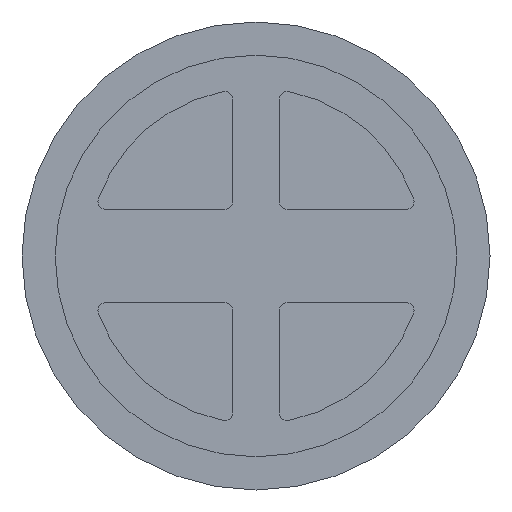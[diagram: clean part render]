
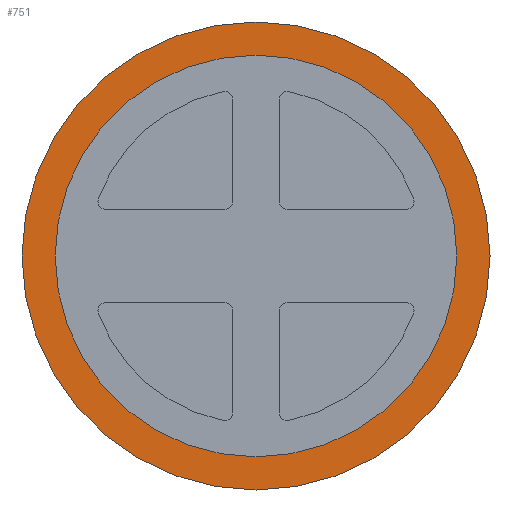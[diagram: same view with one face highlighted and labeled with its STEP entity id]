
A CAD part, front view. The second image highlights one B-rep face of the part: STEP entity #751.
In plain terms, the highlighted planar face has unit normal (0, -1, 0).
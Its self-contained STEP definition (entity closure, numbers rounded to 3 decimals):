
#26 = EDGE_LOOP ( 'NONE', ( #2738, #121 ) ) ;
#121 = ORIENTED_EDGE ( 'NONE', *, *, #532, .T. ) ;
#203 = CIRCLE ( 'NONE', #3458, 30. ) ;
#233 = AXIS2_PLACEMENT_3D ( 'NONE', #2563, #1748, #1454 ) ;
#342 = PLANE ( 'NONE',  #486 ) ;
#366 = CIRCLE ( 'NONE', #3054, 25.75 ) ;
#425 = CARTESIAN_POINT ( 'NONE',  ( 0., 2., 0. ) ) ;
#456 = EDGE_CURVE ( 'NONE', #3456, #2811, #203, .T. ) ;
#486 = AXIS2_PLACEMENT_3D ( 'NONE', #425, #1472, #1524 ) ;
#532 = EDGE_CURVE ( 'NONE', #3163, #775, #366, .T. ) ;
#708 = CARTESIAN_POINT ( 'NONE',  ( 0., 2., -30. ) ) ;
#714 = DIRECTION ( 'NONE',  ( 0., 0., 1. ) ) ;
#751 = ADVANCED_FACE ( 'NONE', ( #2460, #2989 ), #342, .F. ) ;
#775 = VERTEX_POINT ( 'NONE', #975 ) ;
#965 = CARTESIAN_POINT ( 'NONE',  ( 0., 2., 0. ) ) ;
#975 = CARTESIAN_POINT ( 'NONE',  ( 0., 2., -25.75 ) ) ;
#1048 = CIRCLE ( 'NONE', #1934, 30. ) ;
#1441 = ORIENTED_EDGE ( 'NONE', *, *, #2767, .F. ) ;
#1454 = DIRECTION ( 'NONE',  ( 0., 0., 1. ) ) ;
#1472 = DIRECTION ( 'NONE',  ( 0., 1., 0. ) ) ;
#1524 = DIRECTION ( 'NONE',  ( 0., 0., 1. ) ) ;
#1544 = ORIENTED_EDGE ( 'NONE', *, *, #456, .F. ) ;
#1733 = CIRCLE ( 'NONE', #233, 25.75 ) ;
#1748 = DIRECTION ( 'NONE',  ( 0., 1., 0. ) ) ;
#1772 = DIRECTION ( 'NONE',  ( 0., 1., 0. ) ) ;
#1934 = AXIS2_PLACEMENT_3D ( 'NONE', #3126, #2059, #714 ) ;
#2007 = CARTESIAN_POINT ( 'NONE',  ( 0., 2., 25.75 ) ) ;
#2059 = DIRECTION ( 'NONE',  ( 0., 1., 0. ) ) ;
#2261 = DIRECTION ( 'NONE',  ( 0., 0., 1. ) ) ;
#2305 = DIRECTION ( 'NONE',  ( 0., 1., 0. ) ) ;
#2338 = CARTESIAN_POINT ( 'NONE',  ( 0., 2., 0. ) ) ;
#2460 = FACE_BOUND ( 'NONE', #26, .T. ) ;
#2467 = EDGE_CURVE ( 'NONE', #775, #3163, #1733, .T. ) ;
#2563 = CARTESIAN_POINT ( 'NONE',  ( 0., 2., 0. ) ) ;
#2593 = CARTESIAN_POINT ( 'NONE',  ( 0., 2., 30. ) ) ;
#2738 = ORIENTED_EDGE ( 'NONE', *, *, #2467, .T. ) ;
#2767 = EDGE_CURVE ( 'NONE', #2811, #3456, #1048, .T. ) ;
#2811 = VERTEX_POINT ( 'NONE', #708 ) ;
#2872 = DIRECTION ( 'NONE',  ( 0., 0., 1. ) ) ;
#2989 = FACE_OUTER_BOUND ( 'NONE', #3434, .T. ) ;
#3054 = AXIS2_PLACEMENT_3D ( 'NONE', #965, #2305, #2261 ) ;
#3126 = CARTESIAN_POINT ( 'NONE',  ( 0., 2., 0. ) ) ;
#3163 = VERTEX_POINT ( 'NONE', #2007 ) ;
#3434 = EDGE_LOOP ( 'NONE', ( #1441, #1544 ) ) ;
#3456 = VERTEX_POINT ( 'NONE', #2593 ) ;
#3458 = AXIS2_PLACEMENT_3D ( 'NONE', #2338, #1772, #2872 ) ;
